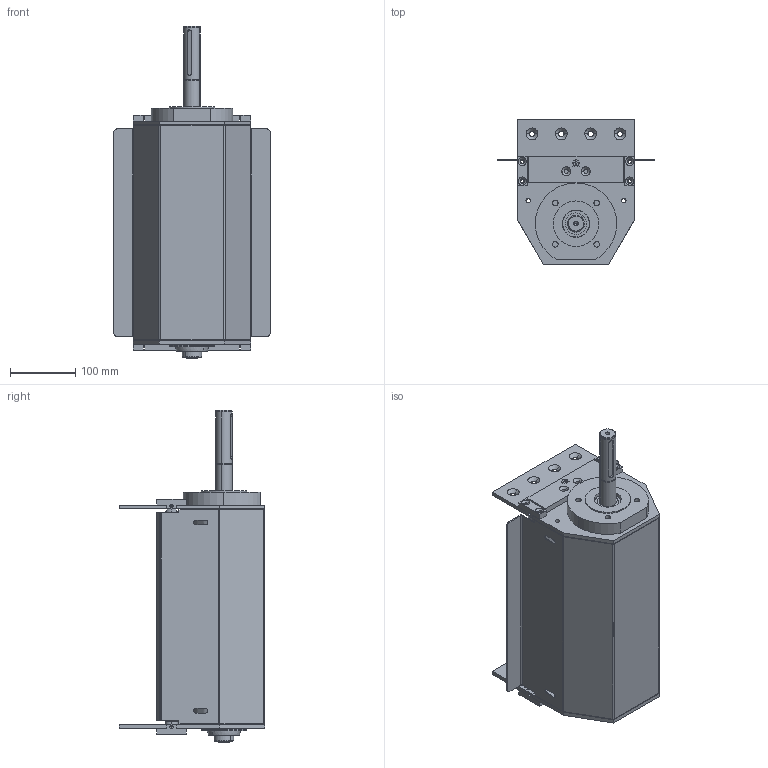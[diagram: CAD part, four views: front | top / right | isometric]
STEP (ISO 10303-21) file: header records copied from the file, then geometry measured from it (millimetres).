
FILE_DESCRIPTION (( 'STEP AP203' ), '1' );
FILE_NAME ('084.050.KCS.49.300.STEP', '2019-07-30T07:59:53', ( '' ), ( '' ), 'SwSTEP 2.0', 'SolidWorks 2018', '' );
FILE_SCHEMA (( 'CONFIG_CONTROL_DESIGN' ));
Length unit declared in the file: millimetre
Products named in the file (15): CUSCINETTI A SFERE_6004-2RS; 084.802.004-1; 084.812.003; 084.817.019; 084.817.020; 084.802.011; 084.817.017_Default<A macchina>; 084.814.003-1; 084.817.018; 084.802.012_Solo centrale; 084.802.021; 084.050.KCS.49.300; 084.810.003; 084.802.020; 084.802.003
Assembly tree (25 placements, depth 2):
  084.050.KCS.49.300
    084.817.020  x2
    084.817.017_Default<A macchina>
    084.817.018
    084.817.019  x2
    084.802.011
    084.802.021
    084.814.003-1
    084.810.003  x2
    084.802.004-1  x4
    084.802.020
    084.812.003
    084.802.003  x2
    CUSCINETTI A SFERE_6004-2RS  x4
    084.802.012_Solo centrale  x2
Bounding box: 240 x 223 x 510 mm (x, y, z)
Volume: 2549340.6 mm3; surface area: 1195694.1 mm2
Topology: 27 solids, 27 shells, 988 faces, 2447 edges, 1567 vertices
Faces by surface type: plane 419, cylinder 347, cone 144, torus 68, sphere 10
Entity records: 20751 total; most frequent: DIRECTION 3492, CARTESIAN_POINT 3297, ORIENTED_EDGE 3058, EDGE_CURVE 1529, AXIS2_PLACEMENT_3D 1327, VERTEX_POINT 984, LINE 838, VECTOR 838
